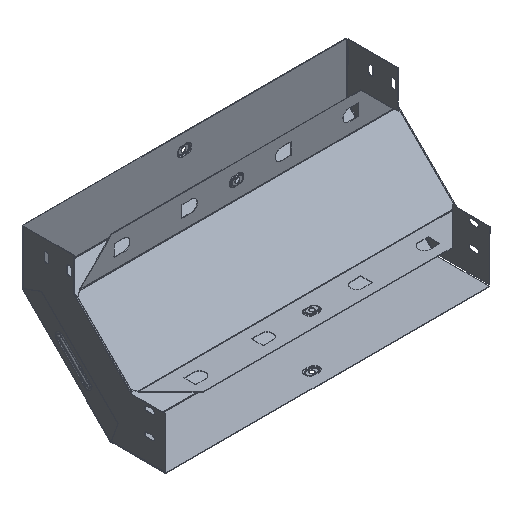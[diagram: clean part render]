
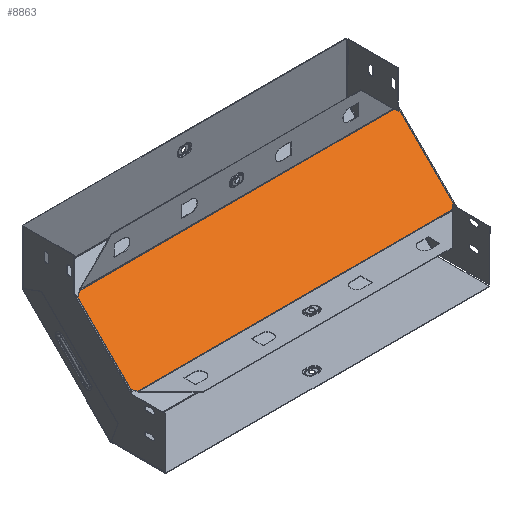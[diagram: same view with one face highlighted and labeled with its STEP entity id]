
A CAD part, isometric view. The second image highlights one B-rep face of the part: STEP entity #8863.
In plain terms, the highlighted planar face has unit normal (0, -0.707, 0.707).
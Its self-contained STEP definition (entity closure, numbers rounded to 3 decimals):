
#20 = ORIENTED_EDGE ( 'NONE', *, *, #5927, .T. ) ;
#253 = CARTESIAN_POINT ( 'NONE',  ( -248.2, 67.724, 17.724 ) ) ;
#337 = PLANE ( 'NONE',  #6514 ) ;
#405 = VERTEX_POINT ( 'NONE', #7694 ) ;
#423 = DIRECTION ( 'NONE',  ( -1., 0., 0. ) ) ;
#489 = LINE ( 'NONE', #3251, #7926 ) ;
#697 = VERTEX_POINT ( 'NONE', #253 ) ;
#714 = ORIENTED_EDGE ( 'NONE', *, *, #3029, .T. ) ;
#740 = CARTESIAN_POINT ( 'NONE',  ( 242.181, -19.707, -69.707 ) ) ;
#880 = LINE ( 'NONE', #1037, #6046 ) ;
#1037 = CARTESIAN_POINT ( 'NONE',  ( -191.546, -55.512, -105.512 ) ) ;
#1248 = DIRECTION ( 'NONE',  ( -0.707, -0.5, -0.5 ) ) ;
#1270 = CARTESIAN_POINT ( 'NONE',  ( 242.181, 69.707, 19.707 ) ) ;
#1557 = ORIENTED_EDGE ( 'NONE', *, *, #6120, .T. ) ;
#1607 = LINE ( 'NONE', #9236, #9029 ) ;
#1688 = CARTESIAN_POINT ( 'NONE',  ( 191.546, -55.512, -105.512 ) ) ;
#1793 = CARTESIAN_POINT ( 'NONE',  ( 248.2, 70., 20. ) ) ;
#1857 = CARTESIAN_POINT ( 'NONE',  ( -246.592, 66.588, 16.588 ) ) ;
#1911 = CARTESIAN_POINT ( 'NONE',  ( 248.2, -19.707, -69.707 ) ) ;
#1983 = DIRECTION ( 'NONE',  ( 0.707, -0.5, -0.5 ) ) ;
#1997 = ORIENTED_EDGE ( 'NONE', *, *, #5221, .T. ) ;
#2023 = DIRECTION ( 'NONE',  ( 0.707, -0.5, -0.5 ) ) ;
#2380 = VECTOR ( 'NONE', #2023, 1000. ) ;
#2550 = CARTESIAN_POINT ( 'NONE',  ( -242.181, 69.707, 19.707 ) ) ;
#2766 = VERTEX_POINT ( 'NONE', #2550 ) ;
#3029 = EDGE_CURVE ( 'NONE', #697, #8954, #4957, .T. ) ;
#3032 = ORIENTED_EDGE ( 'NONE', *, *, #8060, .T. ) ;
#3057 = DIRECTION ( 'NONE',  ( -0.707, -0.5, -0.5 ) ) ;
#3059 = FACE_OUTER_BOUND ( 'NONE', #9323, .T. ) ;
#3153 = ORIENTED_EDGE ( 'NONE', *, *, #3332, .F. ) ;
#3251 = CARTESIAN_POINT ( 'NONE',  ( 191.546, 105.512, 55.512 ) ) ;
#3332 = EDGE_CURVE ( 'NONE', #4178, #405, #1607, .T. ) ;
#3682 = VECTOR ( 'NONE', #7432, 1000. ) ;
#3686 = DIRECTION ( 'NONE',  ( 0., -0.707, -0.707 ) ) ;
#3748 = CARTESIAN_POINT ( 'NONE',  ( -248.2, 70., 20. ) ) ;
#4073 = CARTESIAN_POINT ( 'NONE',  ( -250.299, -19.208, -69.208 ) ) ;
#4142 = LINE ( 'NONE', #6297, #8866 ) ;
#4178 = VERTEX_POINT ( 'NONE', #5294 ) ;
#4232 = LINE ( 'NONE', #4073, #6706 ) ;
#4292 = VERTEX_POINT ( 'NONE', #1857 ) ;
#4333 = CARTESIAN_POINT ( 'NONE',  ( 248.2, 69.707, 19.707 ) ) ;
#4499 = VERTEX_POINT ( 'NONE', #5028 ) ;
#4544 = DIRECTION ( 'NONE',  ( 0., 0.707, 0.707 ) ) ;
#4735 = DIRECTION ( 'NONE',  ( -0.707, 0.5, 0.5 ) ) ;
#4946 = EDGE_CURVE ( 'NONE', #2766, #4292, #9347, .T. ) ;
#4957 = LINE ( 'NONE', #3748, #6334 ) ;
#5025 = VECTOR ( 'NONE', #3057, 1000. ) ;
#5028 = CARTESIAN_POINT ( 'NONE',  ( -242.181, -19.707, -69.707 ) ) ;
#5030 = EDGE_CURVE ( 'NONE', #5382, #2766, #6188, .T. ) ;
#5176 = EDGE_CURVE ( 'NONE', #4178, #8840, #7191, .T. ) ;
#5221 = EDGE_CURVE ( 'NONE', #7506, #6012, #8526, .T. ) ;
#5294 = CARTESIAN_POINT ( 'NONE',  ( 248.2, 67.724, 17.724 ) ) ;
#5366 = EDGE_CURVE ( 'NONE', #4292, #697, #4142, .T. ) ;
#5382 = VERTEX_POINT ( 'NONE', #1270 ) ;
#5613 = CARTESIAN_POINT ( 'NONE',  ( 246.592, -16.588, -66.588 ) ) ;
#5848 = CARTESIAN_POINT ( 'NONE',  ( 246.592, 66.588, 16.588 ) ) ;
#5927 = EDGE_CURVE ( 'NONE', #8484, #4499, #880, .T. ) ;
#6012 = VERTEX_POINT ( 'NONE', #5613 ) ;
#6046 = VECTOR ( 'NONE', #1983, 1000. ) ;
#6120 = EDGE_CURVE ( 'NONE', #8954, #8484, #4232, .T. ) ;
#6158 = EDGE_CURVE ( 'NONE', #7506, #4499, #6604, .T. ) ;
#6162 = ORIENTED_EDGE ( 'NONE', *, *, #9317, .T. ) ;
#6188 = LINE ( 'NONE', #4333, #8999 ) ;
#6297 = CARTESIAN_POINT ( 'NONE',  ( -250.299, 69.208, 19.208 ) ) ;
#6334 = VECTOR ( 'NONE', #3686, 1000. ) ;
#6452 = DIRECTION ( 'NONE',  ( -1., 0., 0. ) ) ;
#6514 = AXIS2_PLACEMENT_3D ( 'NONE', #1793, #6812, #4544 ) ;
#6604 = LINE ( 'NONE', #1911, #6821 ) ;
#6656 = CARTESIAN_POINT ( 'NONE',  ( -246.592, -16.588, -66.588 ) ) ;
#6706 = VECTOR ( 'NONE', #8348, 1000. ) ;
#6796 = DIRECTION ( 'NONE',  ( -0.707, 0.5, 0.5 ) ) ;
#6812 = DIRECTION ( 'NONE',  ( 0., 0.707, -0.707 ) ) ;
#6821 = VECTOR ( 'NONE', #423, 1000. ) ;
#6896 = ORIENTED_EDGE ( 'NONE', *, *, #6158, .F. ) ;
#6959 = CARTESIAN_POINT ( 'NONE',  ( 250.299, -19.208, -69.208 ) ) ;
#6992 = CARTESIAN_POINT ( 'NONE',  ( -191.546, 105.512, 55.512 ) ) ;
#7027 = DIRECTION ( 'NONE',  ( 0., -0.707, -0.707 ) ) ;
#7191 = LINE ( 'NONE', #8114, #5025 ) ;
#7200 = ORIENTED_EDGE ( 'NONE', *, *, #5366, .T. ) ;
#7212 = ORIENTED_EDGE ( 'NONE', *, *, #5030, .T. ) ;
#7432 = DIRECTION ( 'NONE',  ( 0.707, 0.5, 0.5 ) ) ;
#7506 = VERTEX_POINT ( 'NONE', #740 ) ;
#7636 = ORIENTED_EDGE ( 'NONE', *, *, #5176, .T. ) ;
#7694 = CARTESIAN_POINT ( 'NONE',  ( 248.2, -17.724, -67.724 ) ) ;
#7926 = VECTOR ( 'NONE', #6796, 1000. ) ;
#8060 = EDGE_CURVE ( 'NONE', #8840, #5382, #489, .T. ) ;
#8114 = CARTESIAN_POINT ( 'NONE',  ( 250.299, 69.208, 19.208 ) ) ;
#8217 = LINE ( 'NONE', #6959, #2380 ) ;
#8348 = DIRECTION ( 'NONE',  ( 0.707, 0.5, 0.5 ) ) ;
#8484 = VERTEX_POINT ( 'NONE', #6656 ) ;
#8526 = LINE ( 'NONE', #1688, #3682 ) ;
#8537 = VECTOR ( 'NONE', #1248, 1000. ) ;
#8840 = VERTEX_POINT ( 'NONE', #5848 ) ;
#8863 = ADVANCED_FACE ( 'NONE', ( #3059 ), #337, .F. ) ;
#8866 = VECTOR ( 'NONE', #4735, 1000. ) ;
#8954 = VERTEX_POINT ( 'NONE', #9325 ) ;
#8992 = ORIENTED_EDGE ( 'NONE', *, *, #4946, .T. ) ;
#8999 = VECTOR ( 'NONE', #6452, 1000. ) ;
#9029 = VECTOR ( 'NONE', #7027, 1000. ) ;
#9236 = CARTESIAN_POINT ( 'NONE',  ( 248.2, 70., 20. ) ) ;
#9317 = EDGE_CURVE ( 'NONE', #6012, #405, #8217, .T. ) ;
#9323 = EDGE_LOOP ( 'NONE', ( #7636, #3032, #7212, #8992, #7200, #714, #1557, #20, #6896, #1997, #6162, #3153 ) ) ;
#9325 = CARTESIAN_POINT ( 'NONE',  ( -248.2, -17.724, -67.724 ) ) ;
#9347 = LINE ( 'NONE', #6992, #8537 ) ;
